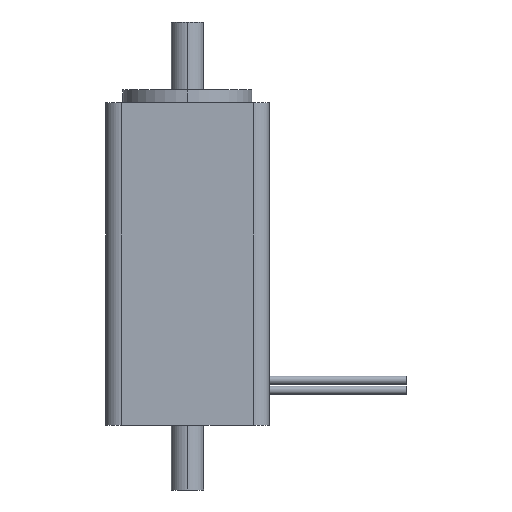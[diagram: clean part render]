
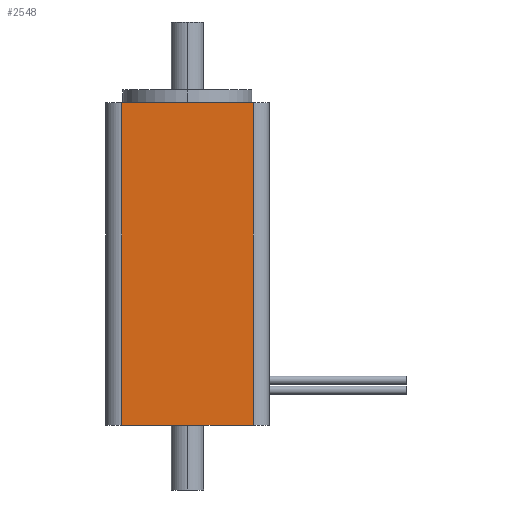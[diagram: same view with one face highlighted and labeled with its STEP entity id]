
A CAD part, left-side view. The second image highlights one B-rep face of the part: STEP entity #2548.
In plain terms, the highlighted planar face has unit normal (-1, 0, 0).
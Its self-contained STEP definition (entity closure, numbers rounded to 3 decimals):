
#98 = CARTESIAN_POINT ( 'NONE',  ( -10.15, 8.15, 0. ) ) ;
#285 = FACE_OUTER_BOUND ( 'NONE', #932, .T. ) ;
#511 = VERTEX_POINT ( 'NONE', #1254 ) ;
#518 = CARTESIAN_POINT ( 'NONE',  ( -10.15, -8.15, 0. ) ) ;
#520 = EDGE_CURVE ( 'NONE', #1929, #511, #622, .T. ) ;
#582 = ORIENTED_EDGE ( 'NONE', *, *, #801, .T. ) ;
#604 = LINE ( 'NONE', #2310, #2176 ) ;
#616 = ORIENTED_EDGE ( 'NONE', *, *, #1324, .T. ) ;
#622 = LINE ( 'NONE', #1923, #1179 ) ;
#682 = AXIS2_PLACEMENT_3D ( 'NONE', #2138, #916, #2349 ) ;
#801 = EDGE_CURVE ( 'NONE', #2127, #1929, #1542, .T. ) ;
#894 = CARTESIAN_POINT ( 'NONE',  ( -10.15, 8.15, 40. ) ) ;
#916 = DIRECTION ( 'NONE',  ( 1., 0., 0. ) ) ;
#932 = EDGE_LOOP ( 'NONE', ( #582, #1767, #1040, #616 ) ) ;
#980 = VECTOR ( 'NONE', #1373, 1000. ) ;
#1040 = ORIENTED_EDGE ( 'NONE', *, *, #2511, .F. ) ;
#1097 = DIRECTION ( 'NONE',  ( 0., 0., -1. ) ) ;
#1179 = VECTOR ( 'NONE', #2036, 1000. ) ;
#1218 = CARTESIAN_POINT ( 'NONE',  ( -10.15, -10.15, 0. ) ) ;
#1254 = CARTESIAN_POINT ( 'NONE',  ( -10.15, -8.15, 40. ) ) ;
#1324 = EDGE_CURVE ( 'NONE', #1823, #2127, #1948, .T. ) ;
#1373 = DIRECTION ( 'NONE',  ( 0., -1., 0. ) ) ;
#1393 = VECTOR ( 'NONE', #1097, 1000. ) ;
#1542 = LINE ( 'NONE', #1218, #980 ) ;
#1706 = DIRECTION ( 'NONE',  ( 0., -1., 0. ) ) ;
#1767 = ORIENTED_EDGE ( 'NONE', *, *, #520, .T. ) ;
#1823 = VERTEX_POINT ( 'NONE', #2590 ) ;
#1923 = CARTESIAN_POINT ( 'NONE',  ( -10.15, -8.15, 40. ) ) ;
#1929 = VERTEX_POINT ( 'NONE', #518 ) ;
#1948 = LINE ( 'NONE', #894, #1393 ) ;
#2036 = DIRECTION ( 'NONE',  ( 0., 0., 1. ) ) ;
#2127 = VERTEX_POINT ( 'NONE', #98 ) ;
#2138 = CARTESIAN_POINT ( 'NONE',  ( -10.15, -10.15, 40. ) ) ;
#2176 = VECTOR ( 'NONE', #1706, 1000. ) ;
#2310 = CARTESIAN_POINT ( 'NONE',  ( -10.15, -10.15, 40. ) ) ;
#2349 = DIRECTION ( 'NONE',  ( 0., 0., -1. ) ) ;
#2511 = EDGE_CURVE ( 'NONE', #1823, #511, #604, .T. ) ;
#2548 = ADVANCED_FACE ( 'NONE', ( #285 ), #2549, .F. ) ;
#2549 = PLANE ( 'NONE',  #682 ) ;
#2590 = CARTESIAN_POINT ( 'NONE',  ( -10.15, 8.15, 40. ) ) ;
